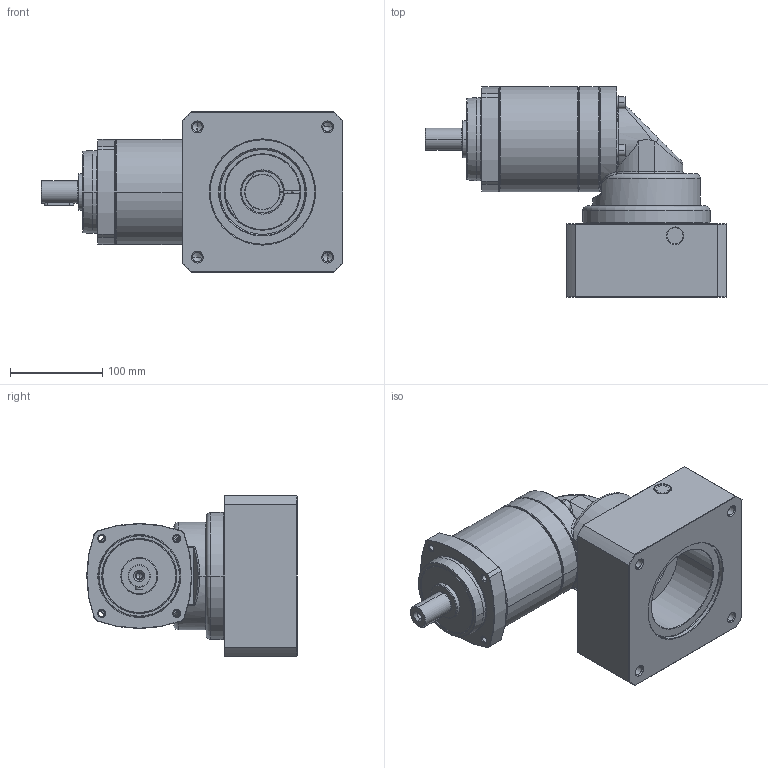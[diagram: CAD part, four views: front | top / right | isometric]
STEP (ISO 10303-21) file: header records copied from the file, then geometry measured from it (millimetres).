
FILE_DESCRIPTION((''),'2;1');
FILE_NAME('PS2R-D_2ST_38-P0411900101_ASM','2016-06-01T',('d01943'),(''),'PRO/ENGINEER BY PARAMETRIC TECHNOLOGY CORPORATION, 2008410','PRO/ENGINEER BY PARAMETRIC TECHNOLOGY CORPORATION, 2008410','');
FILE_SCHEMA(('CONFIG_CONTROL_DESIGN'));
Length unit declared in the file: millimetre
Products named in the file (12): P1328410001; P0251400001; P0350401401; P1349400001; P1017400001; P0713405001; P0503900010; P1350400501; P0411900101; P1702600001; 2111B108035; PS2R-D_2ST_38-P0411900101_ASM
Assembly tree (14 placements, depth 2):
  PS2R-D_2ST_38-P0411900101_ASM
    P1328410001
    P0251400001
    P0350401401
    P1349400001
    P1017400001
    P0713405001
    P0503900010
    P1350400501
    P0411900101
    P1702600001
    2111B108035  x4
Bounding box: 327 x 228.5 x 174 mm (x, y, z)
Volume: 3432593.8 mm3; surface area: 465307 mm2
Topology: 14 solids, 14 shells, 714 faces, 1577 edges, 914 vertices
Faces by surface type: cylinder 218, cone 212, plane 156, torus 94, bspline 34
Entity records: 22963 total; most frequent: CARTESIAN_POINT 9169, DIRECTION 3043, ORIENTED_EDGE 2678, EDGE_CURVE 1339, AXIS2_PLACEMENT_3D 1288, VERTEX_POINT 794, EDGE_LOOP 697, CIRCLE 681
